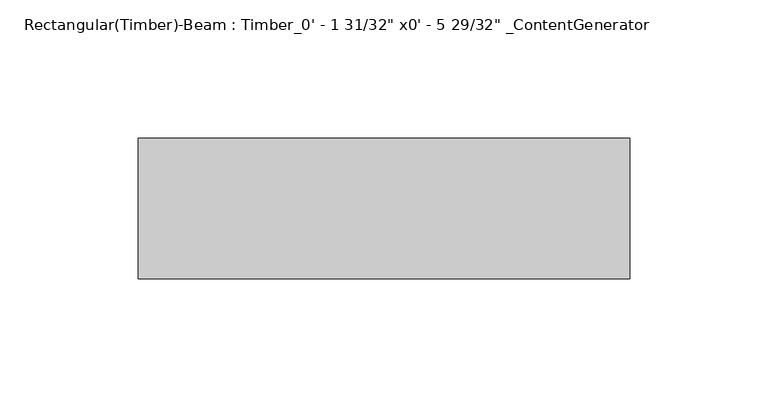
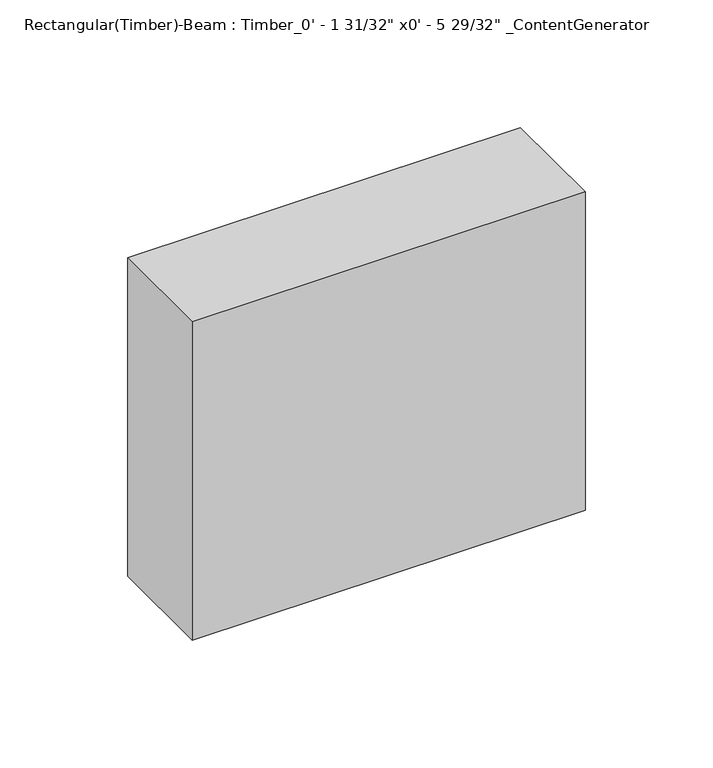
"""IFC4 building model written with IfcOpenShell, lengths in millimetres: beam geometry."""

from ifc_helpers import new_model, si_unit, frame, origin, place, context, project, spatial, polyline, outline, extrude, source, transform, mapped, element, save


def beam_9201261a(model_context):
    return source(origin(), model_context, "Body", "SweptSolid", [
        extrude(outline(polyline([(88.9049994, 25.4), (88.9049994, -25.4), (-88.9049994, -25.4), (-88.9049994, 25.4), (88.9049994, 25.4)])), frame((0.0, 0.0, -76.2), z_axis=(0.0, 0.0, 1.0), x_axis=(1.0, 0.0, 0.0)), (0.0, 0.0, 1.0), 152.4),
    ])


if __name__ == "__main__":
    model = new_model("IFC4")
    model_context = context("Model", 3, world=origin())
    ifc_project = project(units=[si_unit("LENGTHUNIT", "METRE", prefix="MILLI")], contexts=[model_context])
    site = spatial("IfcSite", under=ifc_project)
    building = spatial("IfcBuilding", under=site)
    placement = place(None, origin())
    beam_shape = beam_9201261a(model_context)
    element("IfcBeam", 1, ObjectType="Rectangular(Timber)-Beam : Timber_0' - 1 31/32\" x0' - 5 29/32\" _ContentGenerator", at=placement, inside=building, context=model_context, shape_type="MappedRepresentation", body=[
        mapped(beam_shape, transform((0.0, 0.0, 0.0), x_axis=(1.0, 0.0, 0.0), y_axis=(0.0, 1.0, 0.0), z_axis=(0.0, 0.0, 1.0))),
    ])
    save(model, "model.ifc")
